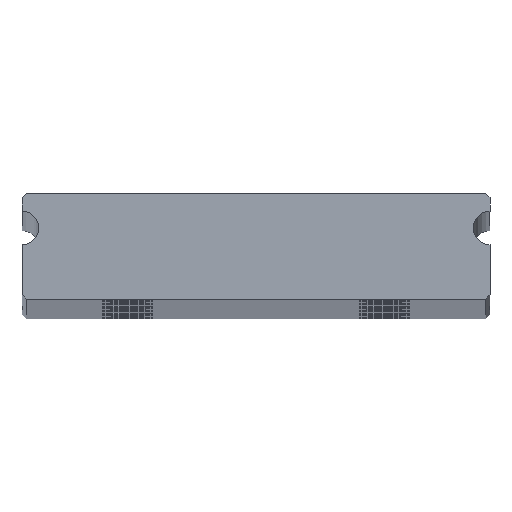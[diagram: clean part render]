
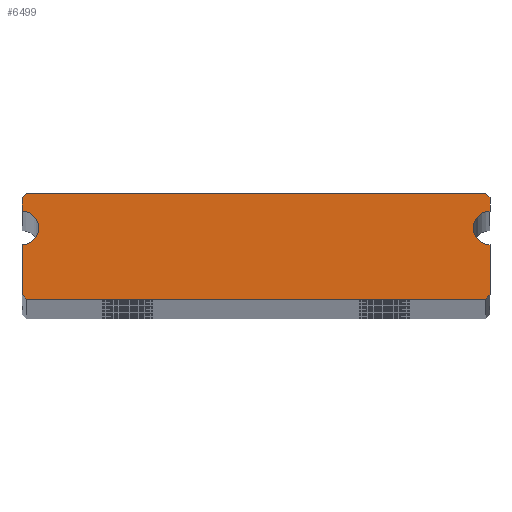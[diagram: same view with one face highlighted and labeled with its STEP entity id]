
A CAD part, top view. The second image highlights one B-rep face of the part: STEP entity #6499.
In plain terms, the highlighted planar face has unit normal (0, 0, 1).
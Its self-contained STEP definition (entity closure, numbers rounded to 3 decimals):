
#35 = CIRCLE ( 'NONE', #1082, 1.5 ) ;
#162 = ORIENTED_EDGE ( 'NONE', *, *, #5544, .F. ) ;
#171 = ORIENTED_EDGE ( 'NONE', *, *, #3833, .F. ) ;
#192 = VECTOR ( 'NONE', #7561, 1000. ) ;
#214 = VECTOR ( 'NONE', #5363, 1000. ) ;
#350 = VECTOR ( 'NONE', #1043, 1000. ) ;
#352 = VERTEX_POINT ( 'NONE', #4596 ) ;
#364 = CARTESIAN_POINT ( 'NONE',  ( -20.603, 3.069, 1000. ) ) ;
#576 = VERTEX_POINT ( 'NONE', #2313 ) ;
#733 = ORIENTED_EDGE ( 'NONE', *, *, #3004, .F. ) ;
#771 = ORIENTED_EDGE ( 'NONE', *, *, #1705, .F. ) ;
#775 = VERTEX_POINT ( 'NONE', #3871 ) ;
#1043 = DIRECTION ( 'NONE',  ( 0., -1., 0. ) ) ;
#1082 = AXIS2_PLACEMENT_3D ( 'NONE', #5224, #1503, #6579 ) ;
#1103 = PLANE ( 'NONE',  #2292 ) ;
#1181 = DIRECTION ( 'NONE',  ( 0., 0., 1. ) ) ;
#1226 = CARTESIAN_POINT ( 'NONE',  ( -20.603, -4.431, 1000. ) ) ;
#1236 = VECTOR ( 'NONE', #8054, 1000. ) ;
#1273 = VECTOR ( 'NONE', #6025, 1000. ) ;
#1315 = CARTESIAN_POINT ( 'NONE',  ( -20.603, -4.431, 1000. ) ) ;
#1319 = CARTESIAN_POINT ( 'NONE',  ( 21.397, -4.431, 1000. ) ) ;
#1351 = CARTESIAN_POINT ( 'NONE',  ( -20.603, 1.569, 1000. ) ) ;
#1490 = VERTEX_POINT ( 'NONE', #3550 ) ;
#1503 = DIRECTION ( 'NONE',  ( 0., 0., 1. ) ) ;
#1705 = EDGE_CURVE ( 'NONE', #8048, #5901, #1939, .T. ) ;
#1717 = ORIENTED_EDGE ( 'NONE', *, *, #1791, .F. ) ;
#1791 = EDGE_CURVE ( 'NONE', #5901, #6282, #6453, .T. ) ;
#1849 = CARTESIAN_POINT ( 'NONE',  ( -20.203, -4.831, 1000. ) ) ;
#1912 = EDGE_CURVE ( 'NONE', #5942, #6303, #4825, .T. ) ;
#1939 = LINE ( 'NONE', #1319, #2719 ) ;
#2014 = EDGE_LOOP ( 'NONE', ( #6159, #1717, #771, #7924, #171, #3697, #7589, #3418, #2350, #733, #6290, #162, #4345 ) ) ;
#2160 = CIRCLE ( 'NONE', #5071, 1.5 ) ;
#2213 = LINE ( 'NONE', #5903, #6080 ) ;
#2258 = LINE ( 'NONE', #364, #1273 ) ;
#2292 = AXIS2_PLACEMENT_3D ( 'NONE', #3003, #5361, #4823 ) ;
#2313 = CARTESIAN_POINT ( 'NONE',  ( -20.203, 4.669, 1000. ) ) ;
#2350 = ORIENTED_EDGE ( 'NONE', *, *, #4441, .F. ) ;
#2481 = CARTESIAN_POINT ( 'NONE',  ( 21.397, 4.269, 1000. ) ) ;
#2592 = DIRECTION ( 'NONE',  ( -1., 0., 0. ) ) ;
#2671 = VERTEX_POINT ( 'NONE', #5174 ) ;
#2719 = VECTOR ( 'NONE', #7820, 1000. ) ;
#3003 = CARTESIAN_POINT ( 'NONE',  ( -20.603, 1.569, 1000. ) ) ;
#3004 = EDGE_CURVE ( 'NONE', #1490, #775, #2258, .T. ) ;
#3015 = EDGE_CURVE ( 'NONE', #352, #8048, #3353, .T. ) ;
#3162 = CARTESIAN_POINT ( 'NONE',  ( 20.997, -4.831, 1000. ) ) ;
#3353 = LINE ( 'NONE', #3965, #6802 ) ;
#3418 = ORIENTED_EDGE ( 'NONE', *, *, #6476, .F. ) ;
#3550 = CARTESIAN_POINT ( 'NONE',  ( -20.603, 3.069, 1000. ) ) ;
#3610 = VECTOR ( 'NONE', #4832, 1000. ) ;
#3697 = ORIENTED_EDGE ( 'NONE', *, *, #5047, .F. ) ;
#3748 = CARTESIAN_POINT ( 'NONE',  ( -20.603, 1.569, 1000. ) ) ;
#3833 = EDGE_CURVE ( 'NONE', #4873, #352, #35, .T. ) ;
#3871 = CARTESIAN_POINT ( 'NONE',  ( -20.603, 4.269, 1000. ) ) ;
#3965 = CARTESIAN_POINT ( 'NONE',  ( 21.397, 0.069, 1000. ) ) ;
#4060 = CARTESIAN_POINT ( 'NONE',  ( 21.397, 3.069, 1000. ) ) ;
#4171 = CARTESIAN_POINT ( 'NONE',  ( -20.203, -4.831, 1000. ) ) ;
#4278 = EDGE_CURVE ( 'NONE', #5599, #5768, #6276, .T. ) ;
#4279 = LINE ( 'NONE', #8018, #1236 ) ;
#4345 = ORIENTED_EDGE ( 'NONE', *, *, #4278, .F. ) ;
#4441 = EDGE_CURVE ( 'NONE', #775, #576, #2213, .T. ) ;
#4596 = CARTESIAN_POINT ( 'NONE',  ( 21.397, 0.069, 1000. ) ) ;
#4621 = DIRECTION ( 'NONE',  ( 0.707, 0.707, 0. ) ) ;
#4721 = AXIS2_PLACEMENT_3D ( 'NONE', #3748, #5779, #6278 ) ;
#4823 = DIRECTION ( 'NONE',  ( -1., 0., 0. ) ) ;
#4825 = LINE ( 'NONE', #6645, #6944 ) ;
#4832 = DIRECTION ( 'NONE',  ( -0.707, 0.707, 0. ) ) ;
#4873 = VERTEX_POINT ( 'NONE', #4060 ) ;
#4974 = CARTESIAN_POINT ( 'NONE',  ( 20.997, 4.669, 1000. ) ) ;
#5047 = EDGE_CURVE ( 'NONE', #6303, #4873, #6708, .T. ) ;
#5071 = AXIS2_PLACEMENT_3D ( 'NONE', #1351, #1181, #2592 ) ;
#5168 = DIRECTION ( 'NONE',  ( 0., -1., 0. ) ) ;
#5174 = CARTESIAN_POINT ( 'NONE',  ( -19.103, 1.569, 1000. ) ) ;
#5224 = CARTESIAN_POINT ( 'NONE',  ( 21.397, 1.569, 1000. ) ) ;
#5361 = DIRECTION ( 'NONE',  ( 0., 0., -1. ) ) ;
#5363 = DIRECTION ( 'NONE',  ( -1., 0., 0. ) ) ;
#5418 = CARTESIAN_POINT ( 'NONE',  ( 21.397, -4.431, 1000. ) ) ;
#5492 = LINE ( 'NONE', #4171, #3610 ) ;
#5544 = EDGE_CURVE ( 'NONE', #5768, #2671, #6836, .T. ) ;
#5599 = VERTEX_POINT ( 'NONE', #1315 ) ;
#5768 = VERTEX_POINT ( 'NONE', #6681 ) ;
#5779 = DIRECTION ( 'NONE',  ( 0., 0., 1. ) ) ;
#5901 = VERTEX_POINT ( 'NONE', #3162 ) ;
#5903 = CARTESIAN_POINT ( 'NONE',  ( -20.603, 4.269, 1000. ) ) ;
#5942 = VERTEX_POINT ( 'NONE', #4974 ) ;
#6025 = DIRECTION ( 'NONE',  ( 0., 1., 0. ) ) ;
#6080 = VECTOR ( 'NONE', #4621, 1000. ) ;
#6159 = ORIENTED_EDGE ( 'NONE', *, *, #7095, .F. ) ;
#6184 = FACE_OUTER_BOUND ( 'NONE', #2014, .T. ) ;
#6276 = LINE ( 'NONE', #1226, #192 ) ;
#6278 = DIRECTION ( 'NONE',  ( -1., 0., 0. ) ) ;
#6282 = VERTEX_POINT ( 'NONE', #1849 ) ;
#6290 = ORIENTED_EDGE ( 'NONE', *, *, #6709, .F. ) ;
#6303 = VERTEX_POINT ( 'NONE', #7610 ) ;
#6453 = LINE ( 'NONE', #7858, #214 ) ;
#6476 = EDGE_CURVE ( 'NONE', #576, #5942, #4279, .T. ) ;
#6499 = ADVANCED_FACE ( 'NONE', ( #6184 ), #1103, .F. ) ;
#6579 = DIRECTION ( 'NONE',  ( -1., 0., 0. ) ) ;
#6645 = CARTESIAN_POINT ( 'NONE',  ( 20.997, 4.669, 1000. ) ) ;
#6681 = CARTESIAN_POINT ( 'NONE',  ( -20.603, 0.069, 1000. ) ) ;
#6708 = LINE ( 'NONE', #2481, #350 ) ;
#6709 = EDGE_CURVE ( 'NONE', #2671, #1490, #2160, .T. ) ;
#6802 = VECTOR ( 'NONE', #5168, 1000. ) ;
#6836 = CIRCLE ( 'NONE', #4721, 1.5 ) ;
#6944 = VECTOR ( 'NONE', #7937, 1000. ) ;
#7095 = EDGE_CURVE ( 'NONE', #6282, #5599, #5492, .T. ) ;
#7561 = DIRECTION ( 'NONE',  ( 0., 1., 0. ) ) ;
#7589 = ORIENTED_EDGE ( 'NONE', *, *, #1912, .F. ) ;
#7610 = CARTESIAN_POINT ( 'NONE',  ( 21.397, 4.269, 1000. ) ) ;
#7820 = DIRECTION ( 'NONE',  ( -0.707, -0.707, 0. ) ) ;
#7858 = CARTESIAN_POINT ( 'NONE',  ( 20.997, -4.831, 1000. ) ) ;
#7924 = ORIENTED_EDGE ( 'NONE', *, *, #3015, .F. ) ;
#7937 = DIRECTION ( 'NONE',  ( 0.707, -0.707, 0. ) ) ;
#8018 = CARTESIAN_POINT ( 'NONE',  ( -20.203, 4.669, 1000. ) ) ;
#8048 = VERTEX_POINT ( 'NONE', #5418 ) ;
#8054 = DIRECTION ( 'NONE',  ( 1., 0., 0. ) ) ;
